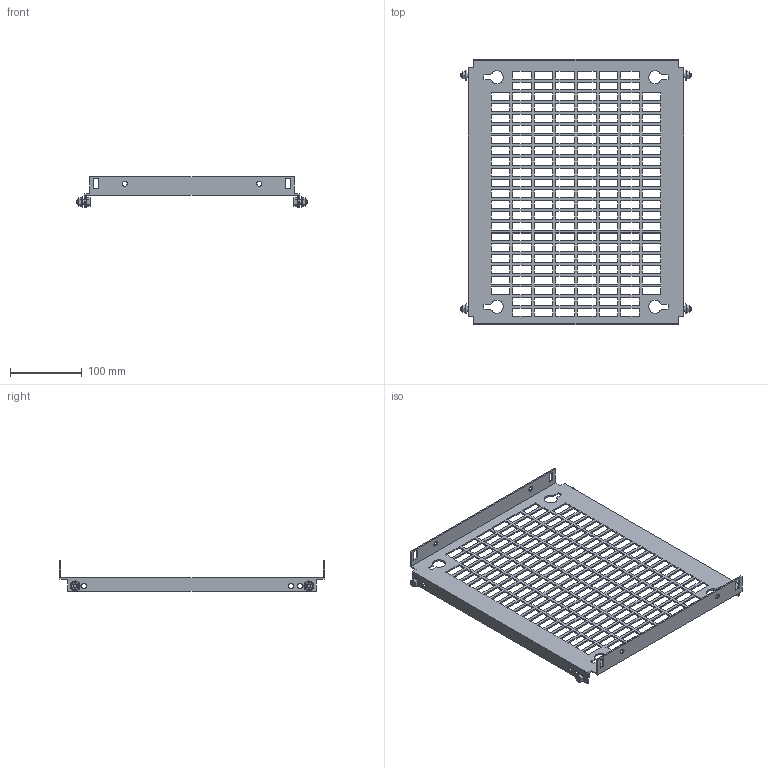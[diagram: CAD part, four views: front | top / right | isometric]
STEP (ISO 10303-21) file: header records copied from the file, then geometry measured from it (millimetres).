
FILE_DESCRIPTION(('Open CASCADE Model'),'2;1');
FILE_NAME('Open CASCADE Shape Model','2025-02-19T16:48:17',('Author'),( 'Open CASCADE'),'Open CASCADE STEP processor 7.8','Open CASCADE 7.8' ,'Unknown');
FILE_SCHEMA(('AUTOMOTIVE_DESIGN { 1 0 10303 214 1 1 1 1 }'));
Length unit declared in the file: millimetre
Products named in the file (4): Compound1; Solid1; Solid2; Solid3
Assembly tree (9 placements, depth 2):
  Compound1
    Solid1
    Solid2  x4
    Solid3  x4
Bounding box: 320 x 369 x 43 mm (x, y, z)
Volume: 172228.3 mm3; surface area: 202007.8 mm2
Topology: 9 solids, 9 shells, 996 faces, 2817 edges, 1843 vertices
Faces by surface type: plane 838, cone 68, bspline 48, cylinder 30, torus 12
Full cylindrical faces by diameter (mm): 5 x4, 6 x8, 7 x14
Entity records: 28726 total; most frequent: CARTESIAN_POINT 5567, ORIENTED_EDGE 4956, DIRECTION 4142, EDGE_CURVE 2478, LINE 2320, VECTOR 2320, VERTEX_POINT 1645, FACE_BOUND 1239
